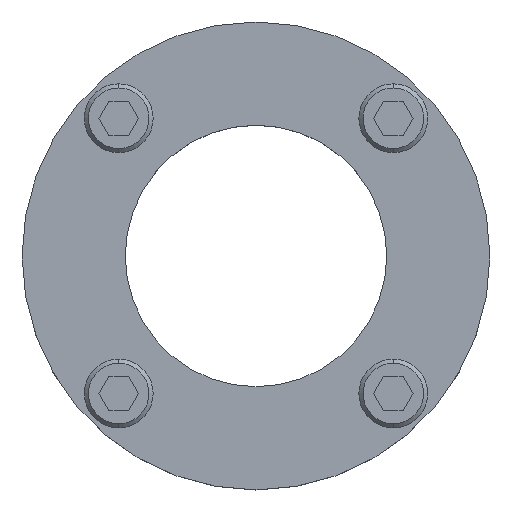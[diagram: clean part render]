
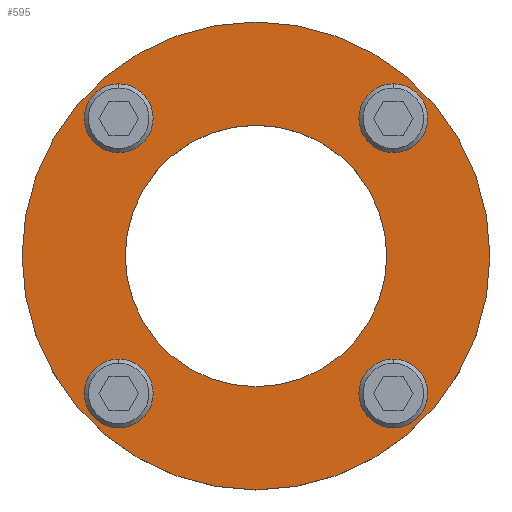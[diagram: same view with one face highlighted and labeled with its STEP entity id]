
A CAD part, top view. The second image highlights one B-rep face of the part: STEP entity #595.
In plain terms, the highlighted planar face has unit normal (0, 0, 1).
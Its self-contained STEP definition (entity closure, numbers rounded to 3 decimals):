
#595=ADVANCED_FACE('',(#779,#780,#781,#782,#783,#784),#725,.T.);
#725=PLANE('',#2192);
#779=FACE_BOUND('',#839,.T.);
#780=FACE_BOUND('',#840,.T.);
#781=FACE_BOUND('',#841,.T.);
#782=FACE_BOUND('',#842,.T.);
#783=FACE_BOUND('',#843,.T.);
#784=FACE_BOUND('',#844,.T.);
#839=EDGE_LOOP('',(#1007,#1008));
#840=EDGE_LOOP('',(#1009,#1010));
#841=EDGE_LOOP('',(#1011,#1012));
#842=EDGE_LOOP('',(#1013,#1014));
#843=EDGE_LOOP('',(#1015,#1016));
#844=EDGE_LOOP('',(#1017,#1018));
#1007=ORIENTED_EDGE('',*,*,#1759,.T.);
#1008=ORIENTED_EDGE('',*,*,#1760,.T.);
#1009=ORIENTED_EDGE('',*,*,#1761,.T.);
#1010=ORIENTED_EDGE('',*,*,#1762,.T.);
#1011=ORIENTED_EDGE('',*,*,#1763,.T.);
#1012=ORIENTED_EDGE('',*,*,#1764,.T.);
#1013=ORIENTED_EDGE('',*,*,#1765,.T.);
#1014=ORIENTED_EDGE('',*,*,#1766,.T.);
#1015=ORIENTED_EDGE('',*,*,#1767,.T.);
#1016=ORIENTED_EDGE('',*,*,#1768,.T.);
#1017=ORIENTED_EDGE('',*,*,#1769,.T.);
#1018=ORIENTED_EDGE('',*,*,#1770,.T.);
#1575=VERTEX_POINT('',#3130);
#1576=VERTEX_POINT('',#3131);
#1577=VERTEX_POINT('',#3134);
#1578=VERTEX_POINT('',#3135);
#1579=VERTEX_POINT('',#3138);
#1580=VERTEX_POINT('',#3139);
#1581=VERTEX_POINT('',#3142);
#1582=VERTEX_POINT('',#3143);
#1583=VERTEX_POINT('',#3146);
#1584=VERTEX_POINT('',#3147);
#1585=VERTEX_POINT('',#3150);
#1586=VERTEX_POINT('',#3151);
#1759=EDGE_CURVE('',#1575,#1576,#2043,.T.);
#1760=EDGE_CURVE('',#1576,#1575,#2044,.T.);
#1761=EDGE_CURVE('',#1577,#1578,#2045,.T.);
#1762=EDGE_CURVE('',#1578,#1577,#2046,.T.);
#1763=EDGE_CURVE('',#1579,#1580,#2047,.T.);
#1764=EDGE_CURVE('',#1580,#1579,#2048,.T.);
#1765=EDGE_CURVE('',#1581,#1582,#2049,.T.);
#1766=EDGE_CURVE('',#1582,#1581,#2050,.T.);
#1767=EDGE_CURVE('',#1583,#1584,#2051,.T.);
#1768=EDGE_CURVE('',#1584,#1583,#2052,.T.);
#1769=EDGE_CURVE('',#1585,#1586,#2053,.T.);
#1770=EDGE_CURVE('',#1586,#1585,#2054,.T.);
#2043=CIRCLE('',#2180,34.);
#2044=CIRCLE('',#2181,34.);
#2045=CIRCLE('',#2182,3.5);
#2046=CIRCLE('',#2183,3.5);
#2047=CIRCLE('',#2184,3.5);
#2048=CIRCLE('',#2185,3.5);
#2049=CIRCLE('',#2186,3.5);
#2050=CIRCLE('',#2187,3.5);
#2051=CIRCLE('',#2188,3.5);
#2052=CIRCLE('',#2189,3.5);
#2053=CIRCLE('',#2190,19.);
#2054=CIRCLE('',#2191,19.);
#2180=AXIS2_PLACEMENT_3D('',#3129,#2448,#2449);
#2181=AXIS2_PLACEMENT_3D('',#3132,#2450,#2451);
#2182=AXIS2_PLACEMENT_3D('',#3133,#2452,#2453);
#2183=AXIS2_PLACEMENT_3D('',#3136,#2454,#2455);
#2184=AXIS2_PLACEMENT_3D('',#3137,#2456,#2457);
#2185=AXIS2_PLACEMENT_3D('',#3140,#2458,#2459);
#2186=AXIS2_PLACEMENT_3D('',#3141,#2460,#2461);
#2187=AXIS2_PLACEMENT_3D('',#3144,#2462,#2463);
#2188=AXIS2_PLACEMENT_3D('',#3145,#2464,#2465);
#2189=AXIS2_PLACEMENT_3D('',#3148,#2466,#2467);
#2190=AXIS2_PLACEMENT_3D('',#3149,#2468,#2469);
#2191=AXIS2_PLACEMENT_3D('',#3152,#2470,#2471);
#2192=AXIS2_PLACEMENT_3D('',#3153,#2472,#2473);
#2448=DIRECTION('',(0.,0.,1.));
#2449=DIRECTION('',(1.,0.,0.));
#2450=DIRECTION('',(0.,0.,1.));
#2451=DIRECTION('',(-1.,0.,0.));
#2452=DIRECTION('',(0.,0.,-1.));
#2453=DIRECTION('',(-1.,0.,0.));
#2454=DIRECTION('',(0.,0.,-1.));
#2455=DIRECTION('',(1.,0.,0.));
#2456=DIRECTION('',(0.,0.,-1.));
#2457=DIRECTION('',(-1.,0.,0.));
#2458=DIRECTION('',(0.,0.,-1.));
#2459=DIRECTION('',(1.,0.,0.));
#2460=DIRECTION('',(0.,0.,-1.));
#2461=DIRECTION('',(-1.,0.,0.));
#2462=DIRECTION('',(0.,0.,-1.));
#2463=DIRECTION('',(1.,0.,0.));
#2464=DIRECTION('',(0.,0.,-1.));
#2465=DIRECTION('',(-1.,0.,0.));
#2466=DIRECTION('',(0.,0.,-1.));
#2467=DIRECTION('',(1.,0.,0.));
#2468=DIRECTION('',(0.,0.,-1.));
#2469=DIRECTION('',(-1.,0.,0.));
#2470=DIRECTION('',(0.,0.,-1.));
#2471=DIRECTION('',(1.,0.,0.));
#2472=DIRECTION('',(0.,0.,1.));
#2473=DIRECTION('',(0.,-1.,0.));
#3129=CARTESIAN_POINT('',(0.,0.,9.));
#3130=CARTESIAN_POINT('',(0.,34.,9.));
#3131=CARTESIAN_POINT('',(0.,-34.,9.));
#3132=CARTESIAN_POINT('',(0.,0.,9.));
#3133=CARTESIAN_POINT('',(19.952,-20.,9.));
#3134=CARTESIAN_POINT('',(19.952,-16.5,9.));
#3135=CARTESIAN_POINT('',(19.952,-23.5,9.));
#3136=CARTESIAN_POINT('',(19.952,-20.,9.));
#3137=CARTESIAN_POINT('',(19.952,20.,9.));
#3138=CARTESIAN_POINT('',(19.952,23.5,9.));
#3139=CARTESIAN_POINT('',(19.952,16.5,9.));
#3140=CARTESIAN_POINT('',(19.952,20.,9.));
#3141=CARTESIAN_POINT('',(-19.952,20.,9.));
#3142=CARTESIAN_POINT('',(-19.952,23.5,9.));
#3143=CARTESIAN_POINT('',(-19.952,16.5,9.));
#3144=CARTESIAN_POINT('',(-19.952,20.,9.));
#3145=CARTESIAN_POINT('',(-19.952,-20.,9.));
#3146=CARTESIAN_POINT('',(-19.952,-16.5,9.));
#3147=CARTESIAN_POINT('',(-19.952,-23.5,9.));
#3148=CARTESIAN_POINT('',(-19.952,-20.,9.));
#3149=CARTESIAN_POINT('',(0.,0.,9.));
#3150=CARTESIAN_POINT('',(0.,19.,9.));
#3151=CARTESIAN_POINT('',(0.,-19.,9.));
#3152=CARTESIAN_POINT('',(0.,0.,9.));
#3153=CARTESIAN_POINT('',(34.,0.,9.));
